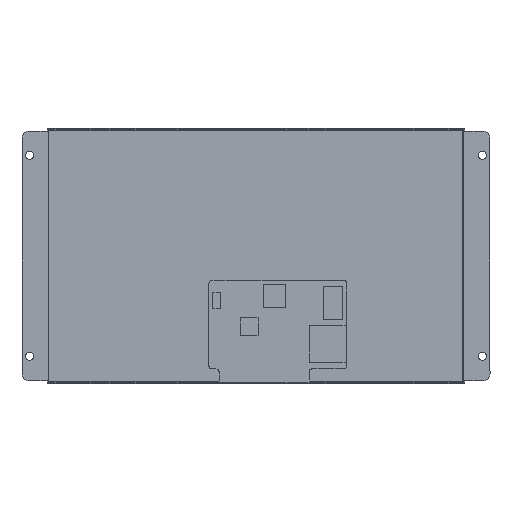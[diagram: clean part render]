
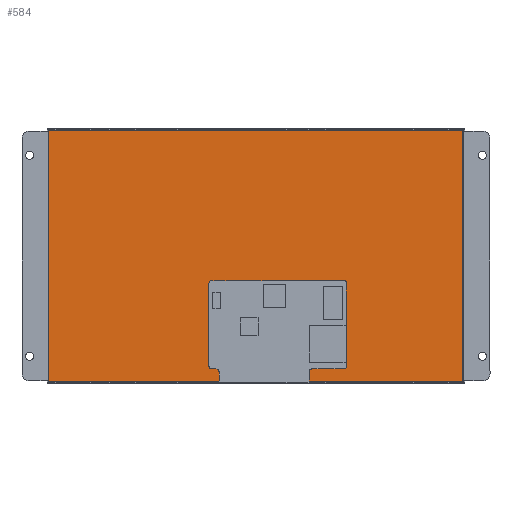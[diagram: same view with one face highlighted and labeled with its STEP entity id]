
A CAD part, top view. The second image highlights one B-rep face of the part: STEP entity #584.
In plain terms, the highlighted planar face has unit normal (0, 0, 1).
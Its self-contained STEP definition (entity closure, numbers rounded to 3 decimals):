
#584=ADVANCED_FACE('',(#905),#768,.F.);
#768=PLANE('',#3782);
#905=FACE_OUTER_BOUND('',#1076,.T.);
#1076=EDGE_LOOP('',(#1897,#1898,#1899,#1900));
#1897=ORIENTED_EDGE('',*,*,#3189,.T.);
#1898=ORIENTED_EDGE('',*,*,#3193,.T.);
#1899=ORIENTED_EDGE('',*,*,#3196,.T.);
#1900=ORIENTED_EDGE('',*,*,#3199,.T.);
#2859=VERTEX_POINT('',#4875);
#2860=VERTEX_POINT('',#4876);
#2863=VERTEX_POINT('',#4890);
#2865=VERTEX_POINT('',#4902);
#3189=EDGE_CURVE('',#2859,#2860,#3680,.T.);
#3193=EDGE_CURVE('',#2860,#2863,#3682,.T.);
#3196=EDGE_CURVE('',#2863,#2865,#3684,.T.);
#3199=EDGE_CURVE('',#2865,#2859,#3686,.T.);
#3680=B_SPLINE_CURVE_WITH_KNOTS('',3,(#4871,#4872,#4873,#4874),
 .UNSPECIFIED.,.F.,.F.,(4,4),(0.,1.),.UNSPECIFIED.);
#3682=B_SPLINE_CURVE_WITH_KNOTS('',3,(#4886,#4887,#4888,#4889),
 .UNSPECIFIED.,.F.,.F.,(4,4),(0.,1.),.UNSPECIFIED.);
#3684=B_SPLINE_CURVE_WITH_KNOTS('',3,(#4898,#4899,#4900,#4901),
 .UNSPECIFIED.,.F.,.F.,(4,4),(0.,1.),.UNSPECIFIED.);
#3686=B_SPLINE_CURVE_WITH_KNOTS('',3,(#4910,#4911,#4912,#4913),
 .UNSPECIFIED.,.F.,.F.,(4,4),(0.,1.),.UNSPECIFIED.);
#3782=AXIS2_PLACEMENT_3D('',#4920,#4056,#4057);
#4056=DIRECTION('',(0.,0.,-1.));
#4057=DIRECTION('',(-1.,0.,0.));
#4871=CARTESIAN_POINT('',(562.698,58.563,-2.2));
#4872=CARTESIAN_POINT('',(507.744,58.563,-2.2));
#4873=CARTESIAN_POINT('',(452.791,58.563,-2.2));
#4874=CARTESIAN_POINT('',(397.838,58.563,-2.2));
#4875=CARTESIAN_POINT('',(562.698,58.563,-2.2));
#4876=CARTESIAN_POINT('',(397.838,58.563,-2.2));
#4886=CARTESIAN_POINT('',(397.838,58.563,-2.2));
#4887=CARTESIAN_POINT('',(397.838,25.243,-2.2));
#4888=CARTESIAN_POINT('',(397.838,-8.077,-2.2));
#4889=CARTESIAN_POINT('',(397.838,-41.397,-2.2));
#4890=CARTESIAN_POINT('',(397.838,-41.397,-2.2));
#4898=CARTESIAN_POINT('',(397.838,-41.397,-2.2));
#4899=CARTESIAN_POINT('',(452.791,-41.397,-2.2));
#4900=CARTESIAN_POINT('',(507.744,-41.397,-2.2));
#4901=CARTESIAN_POINT('',(562.698,-41.397,-2.2));
#4902=CARTESIAN_POINT('',(562.698,-41.397,-2.2));
#4910=CARTESIAN_POINT('',(562.698,-41.397,-2.2));
#4911=CARTESIAN_POINT('',(562.698,-8.077,-2.2));
#4912=CARTESIAN_POINT('',(562.698,25.243,-2.2));
#4913=CARTESIAN_POINT('',(562.698,58.563,-2.2));
#4920=CARTESIAN_POINT('',(480.268,58.563,-2.2));
